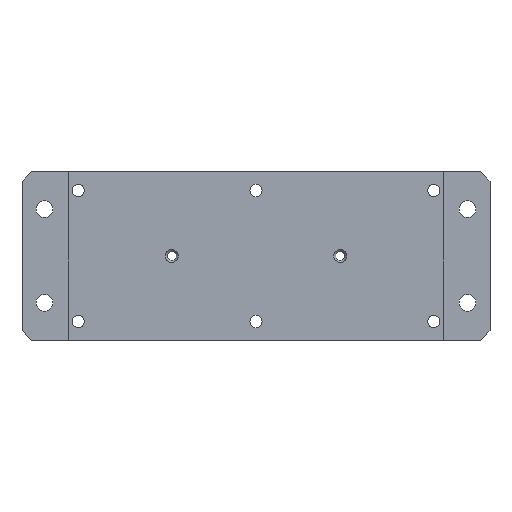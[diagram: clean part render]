
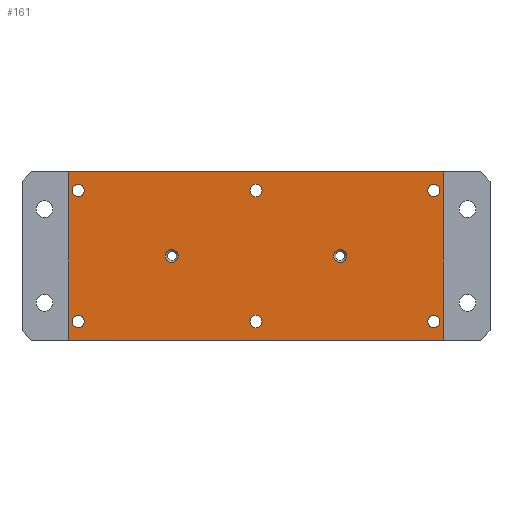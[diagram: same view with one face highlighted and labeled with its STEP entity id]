
A CAD part, top view. The second image highlights one B-rep face of the part: STEP entity #161.
In plain terms, the highlighted planar face has unit normal (0, 0, 1).
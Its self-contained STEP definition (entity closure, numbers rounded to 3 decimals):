
#161=ADVANCED_FACE('',(#467,#469,#471,#473,#475,#477,#479,#481,#483),#485,.T.);
#467=FACE_BOUND('',#468,.T.);
#468=EDGE_LOOP('',(#733,#734,#735,#736));
#469=FACE_BOUND('',#470,.T.);
#470=EDGE_LOOP('',(#737));
#471=FACE_BOUND('',#472,.T.);
#472=EDGE_LOOP('',(#738));
#473=FACE_BOUND('',#474,.T.);
#474=EDGE_LOOP('',(#739));
#475=FACE_BOUND('',#476,.T.);
#476=EDGE_LOOP('',(#740));
#477=FACE_BOUND('',#478,.T.);
#478=EDGE_LOOP('',(#741));
#479=FACE_BOUND('',#480,.T.);
#480=EDGE_LOOP('',(#742));
#481=FACE_BOUND('',#482,.T.);
#482=EDGE_LOOP('',(#743));
#483=FACE_BOUND('',#484,.T.);
#484=EDGE_LOOP('',(#744));
#485=PLANE('',#486);
#486=AXIS2_PLACEMENT_3D('',#487,#488,#489);
#487=CARTESIAN_POINT('',(0.,0.,5.));
#488=DIRECTION('',(0.,0.,1.));
#489=DIRECTION('',(-1.,0.,0.));
#733=ORIENTED_EDGE('',*,*,#836,.F.);
#734=ORIENTED_EDGE('',*,*,#865,.T.);
#735=ORIENTED_EDGE('',*,*,#822,.F.);
#736=ORIENTED_EDGE('',*,*,#866,.T.);
#737=ORIENTED_EDGE('',*,*,#867,.F.);
#738=ORIENTED_EDGE('',*,*,#847,.F.);
#739=ORIENTED_EDGE('',*,*,#845,.F.);
#740=ORIENTED_EDGE('',*,*,#843,.F.);
#741=ORIENTED_EDGE('',*,*,#841,.F.);
#742=ORIENTED_EDGE('',*,*,#839,.F.);
#743=ORIENTED_EDGE('',*,*,#837,.F.);
#744=ORIENTED_EDGE('',*,*,#868,.F.);
#822=EDGE_CURVE('',#890,#892,#893,.T.);
#836=EDGE_CURVE('',#918,#905,#920,.T.);
#837=EDGE_CURVE('',#921,#921,#922,.T.);
#839=EDGE_CURVE('',#925,#925,#926,.T.);
#841=EDGE_CURVE('',#929,#929,#930,.T.);
#843=EDGE_CURVE('',#933,#933,#934,.T.);
#845=EDGE_CURVE('',#937,#937,#938,.T.);
#847=EDGE_CURVE('',#941,#941,#942,.T.);
#865=EDGE_CURVE('',#918,#892,#973,.T.);
#866=EDGE_CURVE('',#890,#905,#974,.T.);
#867=EDGE_CURVE('',#975,#975,#976,.T.);
#868=EDGE_CURVE('',#977,#977,#978,.T.);
#890=VERTEX_POINT('',#1014);
#892=VERTEX_POINT('',#1018);
#893=LINE('',#1019,#1020);
#905=VERTEX_POINT('',#1045);
#918=VERTEX_POINT('',#1070);
#920=LINE('',#1074,#1075);
#921=VERTEX_POINT('',#1077);
#922=CIRCLE('',#1078,3.25);
#925=VERTEX_POINT('',#1087);
#926=CIRCLE('',#1088,3.25);
#929=VERTEX_POINT('',#1097);
#930=CIRCLE('',#1098,3.25);
#933=VERTEX_POINT('',#1107);
#934=CIRCLE('',#1108,3.25);
#937=VERTEX_POINT('',#1117);
#938=CIRCLE('',#1118,3.25);
#941=VERTEX_POINT('',#1127);
#942=CIRCLE('',#1128,3.25);
#973=LINE('',#1205,#1206);
#974=LINE('',#1208,#1209);
#975=VERTEX_POINT('',#1211);
#976=CIRCLE('',#1212,3.459);
#977=VERTEX_POINT('',#1216);
#978=CIRCLE('',#1217,3.459);
#1014=CARTESIAN_POINT('',(100.,-45.,5.));
#1018=CARTESIAN_POINT('',(-100.,-45.,5.));
#1019=CARTESIAN_POINT('',(100.,-45.,5.));
#1020=VECTOR('',#1021,1.);
#1021=DIRECTION('',(-1.,0.,0.));
#1045=CARTESIAN_POINT('',(100.,45.,5.));
#1070=CARTESIAN_POINT('',(-100.,45.,5.));
#1074=CARTESIAN_POINT('',(-100.,45.,5.));
#1075=VECTOR('',#1076,1.);
#1076=DIRECTION('',(1.,0.,0.));
#1077=CARTESIAN_POINT('',(-98.25,-35.,5.));
#1078=AXIS2_PLACEMENT_3D('',#1079,#1080,#1081);
#1079=CARTESIAN_POINT('',(-95.,-35.,5.));
#1080=DIRECTION('',(0.,0.,1.));
#1081=DIRECTION('',(-1.,0.,0.));
#1087=CARTESIAN_POINT('',(-3.25,-35.,5.));
#1088=AXIS2_PLACEMENT_3D('',#1089,#1090,#1091);
#1089=CARTESIAN_POINT('',(0.,-35.,5.));
#1090=DIRECTION('',(0.,0.,1.));
#1091=DIRECTION('',(-1.,0.,0.));
#1097=CARTESIAN_POINT('',(91.75,-35.,5.));
#1098=AXIS2_PLACEMENT_3D('',#1099,#1100,#1101);
#1099=CARTESIAN_POINT('',(95.,-35.,5.));
#1100=DIRECTION('',(0.,0.,1.));
#1101=DIRECTION('',(-1.,0.,0.));
#1107=CARTESIAN_POINT('',(-98.25,35.,5.));
#1108=AXIS2_PLACEMENT_3D('',#1109,#1110,#1111);
#1109=CARTESIAN_POINT('',(-95.,35.,5.));
#1110=DIRECTION('',(0.,0.,1.));
#1111=DIRECTION('',(-1.,0.,0.));
#1117=CARTESIAN_POINT('',(-3.25,35.,5.));
#1118=AXIS2_PLACEMENT_3D('',#1119,#1120,#1121);
#1119=CARTESIAN_POINT('',(0.,35.,5.));
#1120=DIRECTION('',(0.,0.,1.));
#1121=DIRECTION('',(-1.,0.,0.));
#1127=CARTESIAN_POINT('',(91.75,35.,5.));
#1128=AXIS2_PLACEMENT_3D('',#1129,#1130,#1131);
#1129=CARTESIAN_POINT('',(95.,35.,5.));
#1130=DIRECTION('',(0.,0.,1.));
#1131=DIRECTION('',(-1.,0.,0.));
#1205=CARTESIAN_POINT('',(-100.,45.,5.));
#1206=VECTOR('',#1207,1.);
#1207=DIRECTION('',(0.,-1.,0.));
#1208=CARTESIAN_POINT('',(100.,-45.,5.));
#1209=VECTOR('',#1210,1.);
#1210=DIRECTION('',(0.,1.,0.));
#1211=CARTESIAN_POINT('',(-48.459,0.,5.));
#1212=AXIS2_PLACEMENT_3D('',#1213,#1214,#1215);
#1213=CARTESIAN_POINT('',(-45.,0.,5.));
#1214=DIRECTION('',(0.,0.,1.));
#1215=DIRECTION('',(-1.,0.,0.));
#1216=CARTESIAN_POINT('',(41.541,0.,5.));
#1217=AXIS2_PLACEMENT_3D('',#1218,#1219,#1220);
#1218=CARTESIAN_POINT('',(45.,0.,5.));
#1219=DIRECTION('',(0.,0.,1.));
#1220=DIRECTION('',(-1.,0.,0.));
